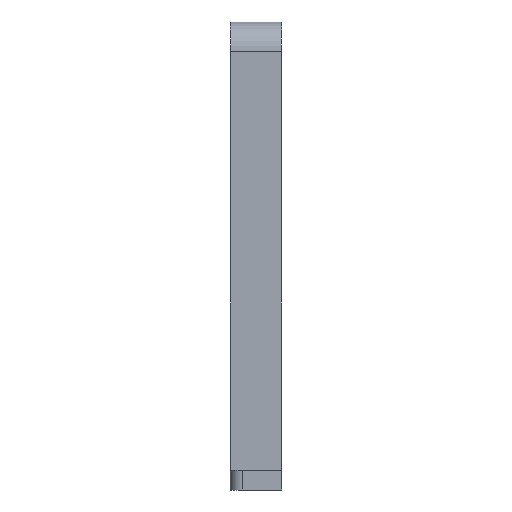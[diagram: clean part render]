
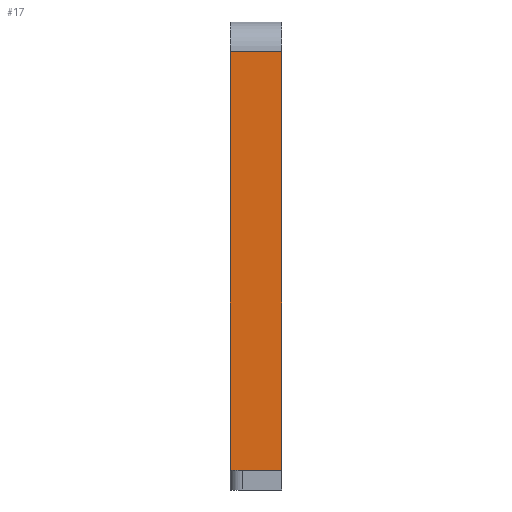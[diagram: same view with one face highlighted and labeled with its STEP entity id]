
A CAD part, front view. The second image highlights one B-rep face of the part: STEP entity #17.
In plain terms, the highlighted planar face has unit normal (0, -1, 0).
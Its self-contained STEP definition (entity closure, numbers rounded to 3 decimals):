
#17 = ADVANCED_FACE('',(#18),#52,.T.);
#18 = FACE_BOUND('',#19,.T.);
#19 = EDGE_LOOP('',(#20,#30,#38,#46));
#20 = ORIENTED_EDGE('',*,*,#21,.F.);
#21 = EDGE_CURVE('',#22,#24,#26,.T.);
#22 = VERTEX_POINT('',#23);
#23 = CARTESIAN_POINT('',(-21.,-36.,24.));
#24 = VERTEX_POINT('',#25);
#25 = CARTESIAN_POINT('',(-21.,-36.,194.));
#26 = LINE('',#27,#28);
#27 = CARTESIAN_POINT('',(-21.,-36.,16.));
#28 = VECTOR('',#29,1.);
#29 = DIRECTION('',(0.,0.,1.));
#30 = ORIENTED_EDGE('',*,*,#31,.F.);
#31 = EDGE_CURVE('',#32,#22,#34,.T.);
#32 = VERTEX_POINT('',#33);
#33 = CARTESIAN_POINT('',(0.,-36.,24.));
#34 = LINE('',#35,#36);
#35 = CARTESIAN_POINT('',(-21.,-36.,24.));
#36 = VECTOR('',#37,1.);
#37 = DIRECTION('',(-1.,0.,0.));
#38 = ORIENTED_EDGE('',*,*,#39,.T.);
#39 = EDGE_CURVE('',#32,#40,#42,.T.);
#40 = VERTEX_POINT('',#41);
#41 = CARTESIAN_POINT('',(0.,-36.,194.));
#42 = LINE('',#43,#44);
#43 = CARTESIAN_POINT('',(0.,-36.,8.));
#44 = VECTOR('',#45,1.);
#45 = DIRECTION('',(0.,0.,1.));
#46 = ORIENTED_EDGE('',*,*,#47,.F.);
#47 = EDGE_CURVE('',#24,#40,#48,.T.);
#48 = LINE('',#49,#50);
#49 = CARTESIAN_POINT('',(-21.,-36.,194.));
#50 = VECTOR('',#51,1.);
#51 = DIRECTION('',(1.,0.,0.));
#52 = PLANE('',#53);
#53 = AXIS2_PLACEMENT_3D('',#54,#55,#56);
#54 = CARTESIAN_POINT('',(-21.,-36.,16.));
#55 = DIRECTION('',(0.,-1.,0.));
#56 = DIRECTION('',(0.,0.,1.));
